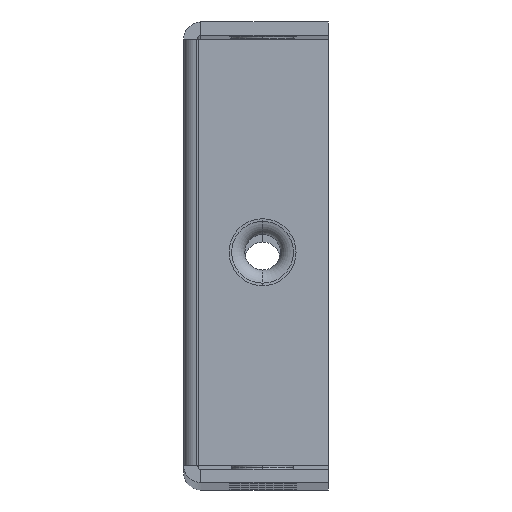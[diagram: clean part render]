
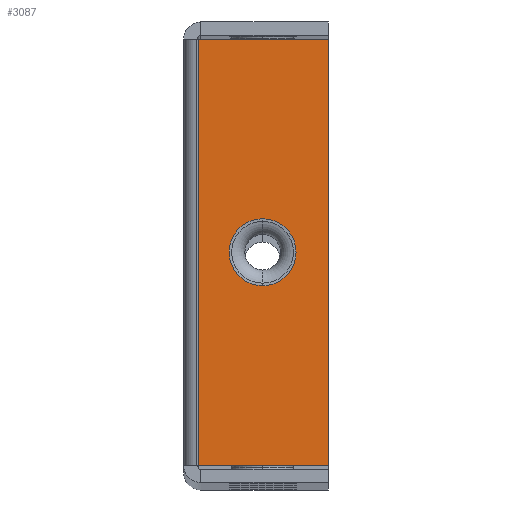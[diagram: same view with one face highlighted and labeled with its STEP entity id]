
A CAD part, top view. The second image highlights one B-rep face of the part: STEP entity #3087.
In plain terms, the highlighted planar face has unit normal (0, 0, 1).
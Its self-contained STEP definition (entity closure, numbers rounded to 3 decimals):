
#244=DIRECTION('',(0.,-1.,0.));
#245=VECTOR('',#244,32.43);
#246=CARTESIAN_POINT('',(1.1,33.73,0.));
#247=LINE('',#246,#245);
#928=DIRECTION('',(-1.,0.,0.));
#929=VECTOR('',#928,9.9);
#930=CARTESIAN_POINT('',(11.,33.73,0.));
#931=LINE('',#930,#929);
#936=DIRECTION('',(-1.,0.,0.));
#937=VECTOR('',#936,9.9);
#938=CARTESIAN_POINT('',(11.,1.3,0.));
#939=LINE('',#938,#937);
#940=CARTESIAN_POINT('',(6.,17.515,0.));
#941=DIRECTION('',(0.,0.,1.));
#942=DIRECTION('',(0.,1.,0.));
#943=AXIS2_PLACEMENT_3D('',#940,#941,#942);
#945=CARTESIAN_POINT('',(6.,17.515,0.));
#946=DIRECTION('',(0.,0.,1.));
#947=DIRECTION('',(0.,-1.,0.));
#948=AXIS2_PLACEMENT_3D('',#945,#946,#947);
#950=DIRECTION('',(0.,1.,0.));
#951=VECTOR('',#950,32.43);
#952=CARTESIAN_POINT('',(11.,1.3,0.));
#953=LINE('',#952,#951);
#1590=CARTESIAN_POINT('',(1.1,1.3,0.));
#1591=VERTEX_POINT('',#1590);
#1594=CARTESIAN_POINT('',(1.1,33.73,0.));
#1595=VERTEX_POINT('',#1594);
#1842=CARTESIAN_POINT('',(11.,33.73,0.));
#1843=VERTEX_POINT('',#1842);
#1844=CARTESIAN_POINT('',(11.,1.3,0.));
#1845=VERTEX_POINT('',#1844);
#1846=CARTESIAN_POINT('',(6.,20.065,0.));
#1847=CARTESIAN_POINT('',(6.,14.965,0.));
#1848=VERTEX_POINT('',#1846);
#1849=VERTEX_POINT('',#1847);
#3068=CARTESIAN_POINT('',(1.1,33.73,0.));
#3069=DIRECTION('',(0.,0.,-1.));
#3070=DIRECTION('',(1.,0.,0.));
#3071=AXIS2_PLACEMENT_3D('',#3068,#3069,#3070);
#3072=PLANE('',#3071);
#3073=ORIENTED_EDGE('',*,*,#3059,.F.);
#3075=ORIENTED_EDGE('',*,*,#3074,.F.);
#3077=ORIENTED_EDGE('',*,*,#3076,.T.);
#3078=ORIENTED_EDGE('',*,*,#2020,.F.);
#3079=EDGE_LOOP('',(#3073,#3075,#3077,#3078));
#3080=FACE_OUTER_BOUND('',#3079,.F.);
#3082=ORIENTED_EDGE('',*,*,#3081,.T.);
#3084=ORIENTED_EDGE('',*,*,#3083,.T.);
#3085=EDGE_LOOP('',(#3082,#3084));
#3086=FACE_BOUND('',#3085,.F.);
#944=CIRCLE('',#943,2.55);
#949=CIRCLE('',#948,2.55);
#2020=EDGE_CURVE('',#1595,#1591,#247,.T.);
#3059=EDGE_CURVE('',#1843,#1595,#931,.T.);
#3074=EDGE_CURVE('',#1845,#1843,#953,.T.);
#3076=EDGE_CURVE('',#1845,#1591,#939,.T.);
#3081=EDGE_CURVE('',#1848,#1849,#944,.T.);
#3083=EDGE_CURVE('',#1849,#1848,#949,.T.);
#3087=ADVANCED_FACE('',(#3080,#3086),#3072,.F.);
